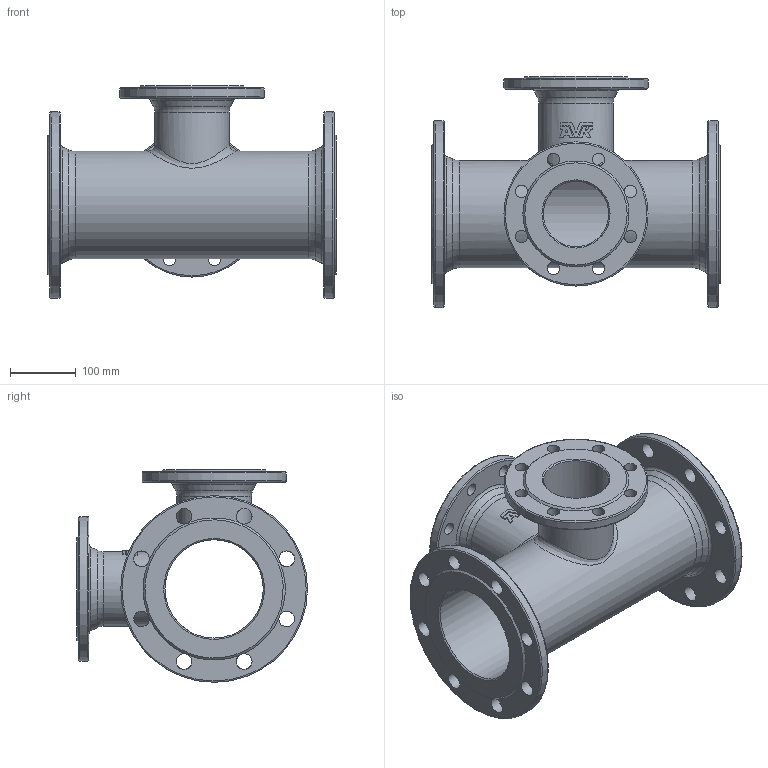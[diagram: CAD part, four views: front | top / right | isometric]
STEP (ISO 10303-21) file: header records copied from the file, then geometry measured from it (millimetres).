
FILE_DESCRIPTION (( 'STEP AP203' ), '1' );
FILE_NAME ('O_712_1110_DN100_DN150_AA0.step', '2017-10-13T07:02:37', ( 'Windows User' ), ( 'AVK' ), 'SwSTEP 2.0', 'SolidWorks 2012', '' );
FILE_SCHEMA (( 'CONFIG_CONTROL_DESIGN' ));
Length unit declared in the file: millimetre
Products named in the file (1): O_712_1110_DN100_DN150_AA0
Bounding box: 440 x 352.5 x 324.5 mm (x, y, z)
Volume: 4309481.5 mm3; surface area: 870309.6 mm2
Topology: 1 solids, 1 shells, 164 faces, 538 edges, 351 vertices
Faces by surface type: cylinder 85, plane 47, torus 16, cone 12, bspline 4
Full cylindrical faces by diameter (mm): 19 x16, 24 x16, 100 x2, 114 x2, 150 x1, 164 x1, 220 x2, 285 x2
Entity records: 9131 total; most frequent: CARTESIAN_POINT 5105, ORIENTED_EDGE 808, DIRECTION 748, EDGE_CURVE 404, AXIS2_PLACEMENT_3D 333, VERTEX_POINT 296, EDGE_LOOP 288, FACE_OUTER_BOUND 226
